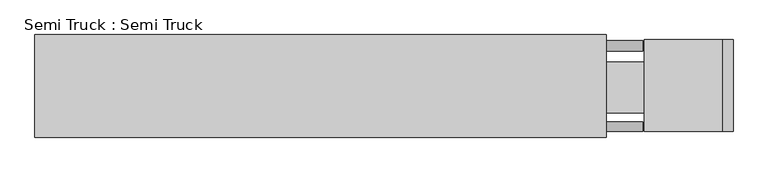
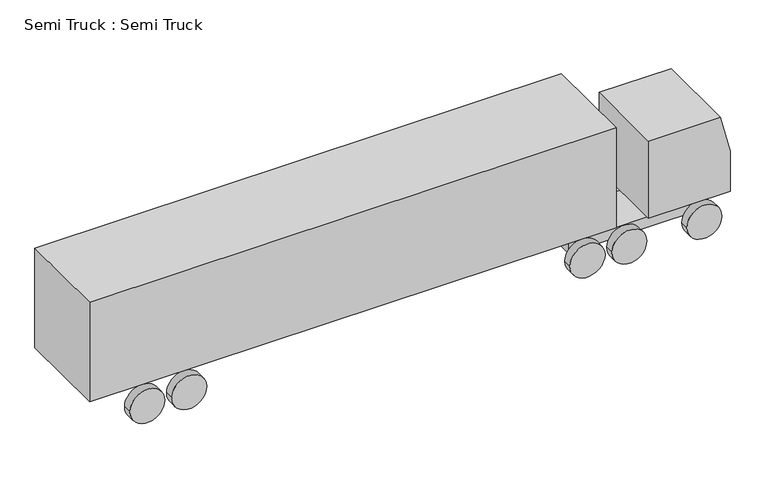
"""IFC4 building model written with IfcOpenShell, lengths in millimetres: proxy geometry, Semi Truck : Semi Truck."""

import ifcopenshell
import ifcopenshell.guid

model = None  # the IFC model being written
_history = None  # IfcOwnerHistory: only IFC2X3 demands one
_inside = {}  # id of a spatial element -> (the spatial element, [elements in it])
_under = {}  # id of a project, library or spatial element -> (it, [spatial elements below it])
_declared = {}  # id of a project -> (the project, [libraries it declares])
_typed = {}  # id of a type object -> (the type object, [elements of that type])
_made_of = {}  # id of a material, layer set ... -> (it, [elements and type objects made of it])


def new_model(schema):
    """Start an empty IFC model of exactly this schema.

    Asked for "IFC4X3", IfcOpenShell would pick the latest addendum, in which some entities
    have other attributes; the version numbers below select the first issue.
    IFC2X3 requires an IfcOwnerHistory on every rooted entity: one is made here for all.
    """
    global model, _history
    if schema == "IFC4X3":
        model = ifcopenshell.file(schema_version=(4, 3, 0, 0))
    else:
        model = ifcopenshell.file(schema=schema)
    _inside.clear()
    _under.clear()
    _declared.clear()
    _typed.clear()
    _made_of.clear()
    _history = None
    if model.schema == "IFC2X3":
        org = make("IfcOrganization", Name="unknown")
        user = make(
            "IfcPersonAndOrganization",
            ThePerson=make("IfcPerson", FamilyName="unknown"),
            TheOrganization=org,
        )
        app = make(
            "IfcApplication",
            ApplicationDeveloper=org,
            Version="unknown",
            ApplicationFullName="unknown",
            ApplicationIdentifier="unknown",
        )
        _history = make(
            "IfcOwnerHistory",
            OwningUser=user,
            OwningApplication=app,
            ChangeAction="ADDED",
            CreationDate=0,
        )
    return model


def make(cls, **values):
    """One entity of the class cls with the attributes given. An attribute that is None is left unset."""
    return model.create_entity(
        cls, **{name: value for name, value in values.items() if value is not None}
    )


def rooted(cls, **values):
    """An entity with a GlobalId (a new one), such as an element, a storey or a relation."""
    return make(cls, GlobalId=ifcopenshell.guid.new(), OwnerHistory=_history, **values)


def si_unit(unit_type, name, prefix=None):
    """IfcSIUnit, for example si_unit("LENGTHUNIT", "METRE", prefix="MILLI")."""
    return make("IfcSIUnit", UnitType=unit_type, Prefix=prefix, Name=name)


def assignment(units):
    """IfcUnitAssignment: the units of a project."""
    return None if units is None else make("IfcUnitAssignment", Units=units)


def point(xyz):
    """IfcCartesianPoint."""
    return None if xyz is None else make("IfcCartesianPoint", Coordinates=xyz)


def direction(xyz):
    """IfcDirection."""
    return None if xyz is None else make("IfcDirection", DirectionRatios=xyz)


def frame(location, z_axis=None, x_axis=None):
    """IfcAxis2Placement3D, a coordinate frame: its origin and axes. An axis left out is left unset."""
    return make(
        "IfcAxis2Placement3D",
        Location=point(location),
        Axis=direction(z_axis),
        RefDirection=direction(x_axis),
    )


def frame_2d(location, x_axis=None):
    """IfcAxis2Placement2D, a coordinate frame in the plane: its origin and x axis."""
    return make(
        "IfcAxis2Placement2D", Location=point(location), RefDirection=direction(x_axis)
    )


def origin():
    """The frame at (0, 0, 0) with its axes left unset."""
    return frame((0.0, 0.0, 0.0))


def place(relative_to, where):
    """IfcLocalPlacement: puts the frame where relative to a parent placement (None: the world)."""
    return make(
        "IfcLocalPlacement", PlacementRelTo=relative_to, RelativePlacement=where
    )


def context(
    kind, dimensions, precision=None, world=None, true_north=None, identifier=None
):
    """IfcGeometricRepresentationContext, for example the 3D "Model" context."""
    return make(
        "IfcGeometricRepresentationContext",
        ContextIdentifier=identifier,
        ContextType=kind,
        CoordinateSpaceDimension=dimensions,
        Precision=precision,
        WorldCoordinateSystem=world,
        TrueNorth=true_north,
    )


def project(units=None, contexts=None):
    """IfcProject with its units and contexts."""
    return rooted(
        "IfcProject",
        Name="project",
        RepresentationContexts=contexts,
        UnitsInContext=assignment(units),
    )


def spatial(cls, under=None, at=None, **own):
    """A site, building, storey or space (cls), placed at a placement, below another one or the project."""
    s = rooted(cls, ObjectPlacement=at, **own)
    if under is not None:
        _under.setdefault(under.id(), (under, []))[1].append(s)
    return s


def polyline(points):
    """IfcPolyline through the points."""
    return make("IfcPolyline", Points=[point(p) for p in points])


def circle_curve(where, radius):
    """IfcCircle in the frame where."""
    return make("IfcCircle", Position=where, Radius=radius)


def trimmed(basis, trim1, trim2, sense, master):
    """IfcTrimmedCurve: the piece of a basis curve between two trims."""
    return make(
        "IfcTrimmedCurve",
        BasisCurve=basis,
        Trim1=trim1,
        Trim2=trim2,
        SenseAgreement=sense,
        MasterRepresentation=master,
    )


def segment(curve, same_sense, transition):
    """IfcCompositeCurveSegment."""
    return make(
        "IfcCompositeCurveSegment",
        Transition=transition,
        SameSense=same_sense,
        ParentCurve=curve,
    )


def composite_curve(segments, self_intersect=None):
    """IfcCompositeCurve: segments joined end to end."""
    return make("IfcCompositeCurve", Segments=segments, SelfIntersect=self_intersect)


def outline(outer, holes=None, kind="AREA"):
    """IfcArbitraryClosedProfileDef: a profile drawn as a closed curve; with holes, ...WithVoids."""
    if holes is None:
        return make("IfcArbitraryClosedProfileDef", ProfileType=kind, OuterCurve=outer)
    return make(
        "IfcArbitraryProfileDefWithVoids",
        ProfileType=kind,
        OuterCurve=outer,
        InnerCurves=holes,
    )


def extrude(swept, where, along, depth):
    """IfcExtrudedAreaSolid: the profile swept, set in the frame where, extruded along a direction by depth."""
    return make(
        "IfcExtrudedAreaSolid",
        SweptArea=swept,
        Position=where,
        ExtrudedDirection=direction(along),
        Depth=depth,
    )


def shape(context_of_items, identifier, shape_type, items):
    """IfcShapeRepresentation: the items that make up one representation, for example the "Body"."""
    return make(
        "IfcShapeRepresentation",
        ContextOfItems=context_of_items,
        RepresentationIdentifier=identifier,
        RepresentationType=shape_type,
        Items=items,
    )


def source(mapping_origin, context_of_items, identifier, shape_type, items):
    """IfcRepresentationMap: a shape defined once, which mapped items show again and again."""
    return make(
        "IfcRepresentationMap",
        MappingOrigin=mapping_origin,
        MappedRepresentation=shape(context_of_items, identifier, shape_type, items),
    )


def transform(
    local_origin,
    x_axis=None,
    y_axis=None,
    z_axis=None,
    scale=None,
    scale2=None,
    scale3=None,
    uniform=True,
):
    """IfcCartesianTransformationOperator3D, or its non-uniform kind. x_axis, y_axis, z_axis: its Axis1, 2, 3."""
    if uniform:
        return make(
            "IfcCartesianTransformationOperator3D",
            Axis1=direction(x_axis),
            Axis2=direction(y_axis),
            LocalOrigin=point(local_origin),
            Scale=scale,
            Axis3=direction(z_axis),
        )
    return make(
        "IfcCartesianTransformationOperator3DnonUniform",
        Axis1=direction(x_axis),
        Axis2=direction(y_axis),
        LocalOrigin=point(local_origin),
        Scale=scale,
        Axis3=direction(z_axis),
        Scale2=scale2,
        Scale3=scale3,
    )


def mapped(mapping_source, mapping_target):
    """IfcMappedItem: shows the shape of a source again, moved by a transform."""
    return make(
        "IfcMappedItem", MappingSource=mapping_source, MappingTarget=mapping_target
    )


def made_of(thing, what):
    """Note that an element or type object is made of a material, layer set ...; save() writes the relation."""
    if what is not None:
        _made_of.setdefault(what.id(), (what, []))[1].append(thing)
    return thing


def element(
    cls,
    number,
    at=None,
    inside=None,
    cuts=None,
    type_object=None,
    material=None,
    context=None,
    identifier="Body",
    shape_type=None,
    held_by="IfcProductDefinitionShape",
    body=None,
    shapes=None,
    **own,
):
    """One element of the class cls, such as IfcWall. Its Tag is "e" and its number.

    at: its placement. inside: the storey or other place that contains it. cuts: it is an
    opening in that element (IfcRelVoidsElement). A single representation is given by context,
    identifier, shape_type and body (its items); several are given by shapes. held_by: the class
    of the entity that holds the representations. save() writes the other relations.
    """
    e = rooted(cls, Tag="e%d" % number, ObjectPlacement=at, **own)
    if body is not None:
        shapes = [shape(context, identifier, shape_type, body)]
    if shapes is not None:
        e.Representation = make(held_by, Representations=shapes)
    if inside is not None:
        _inside.setdefault(inside.id(), (inside, []))[1].append(e)
    if cuts is not None:
        rooted(
            "IfcRelVoidsElement", RelatingBuildingElement=cuts, RelatedOpeningElement=e
        )
    if type_object is not None:
        _typed.setdefault(type_object.id(), (type_object, []))[1].append(e)
    return made_of(e, material)


def aggregate(whole, parts):
    """IfcRelAggregates: a whole, such as a stair, and the parts it consists of."""
    return rooted("IfcRelAggregates", RelatingObject=whole, RelatedObjects=parts)


def save(model, path):
    """Write the relations noted so far, then the file.

    IfcRelAggregates (storeys below a building ...), IfcRelContainedInSpatialStructure (elements
    in a storey), IfcRelDefinesByType, IfcRelAssociatesMaterial and IfcRelDeclares: one each for
    every whole, place, type object, material and project.
    """
    for whole, parts in _under.values():
        aggregate(whole, parts)
    for where, things in _inside.values():
        rooted(
            "IfcRelContainedInSpatialStructure",
            RelatedElements=things,
            RelatingStructure=where,
        )
    for kind, things in _typed.values():
        rooted("IfcRelDefinesByType", RelatedObjects=things, RelatingType=kind)
    for what, things in _made_of.values():
        rooted("IfcRelAssociatesMaterial", RelatedObjects=things, RelatingMaterial=what)
    for by, libraries in _declared.values():
        rooted("IfcRelDeclares", RelatingContext=by, RelatedDefinitions=libraries)
    model.write(path)


def semi_truck_semi_truck_f452f70d(model_context):
    return source(origin(), model_context, "Body", "SweptSolid", [
        extrude(outline(polyline([(12801.9874353, 1803.4), (16129.3874353, 1803.4), (16129.3874353, 584.2), (12801.9874353, 584.2), (12801.9874353, 1803.4)])), frame((0.0, 0.0, 474.4382453), z_axis=(0.0, 0.0, 1.0), x_axis=(1.0, 0.0, 0.0)), (0.0, 0.0, 1.0), 279.4),
        extrude(outline(composite_curve([segment(trimmed(circle_curve(frame_2d((462.8573069, 16091.7081812)), 457.2), [point((462.8573069, 16548.9081812))], [point((462.8573069, 15634.5081812))], False, "CARTESIAN"), True, "CONTINUOUS"), segment(trimmed(circle_curve(frame_2d((462.8573069, 16091.7081812)), 457.2), [point((462.8573069, 15634.5081812))], [point((462.8573069, 16548.9081812))], False, "CARTESIAN"), True, "CONTINUOUS")], self_intersect=False)), frame((0.0, 133.878403, 0.0), z_axis=(0.0, 1.0, 0.0), x_axis=(0.0, 0.0, 1.0)), (0.0, 0.0, 1.0), 228.6),
        extrude(outline(composite_curve([segment(trimmed(circle_curve(frame_2d((464.8502402, 13047.865337)), 457.2), [point((464.8502402, 13505.065337))], [point((464.8502402, 12590.665337))], False, "CARTESIAN"), True, "CONTINUOUS"), segment(trimmed(circle_curve(frame_2d((464.8502402, 13047.865337)), 457.2), [point((464.8502402, 12590.665337))], [point((464.8502402, 13505.065337))], False, "CARTESIAN"), True, "CONTINUOUS")], self_intersect=False)), frame((0.0, 133.878403, 0.0), z_axis=(0.0, 1.0, 0.0), x_axis=(0.0, 0.0, 1.0)), (0.0, 0.0, 1.0), 228.6),
        extrude(outline(composite_curve([segment(trimmed(circle_curve(frame_2d((462.8573069, 14137.8642567)), 457.2), [point((462.8573069, 14595.0642567))], [point((462.8573069, 13680.6642567))], False, "CARTESIAN"), True, "CONTINUOUS"), segment(trimmed(circle_curve(frame_2d((462.8573069, 14137.8642567)), 457.2), [point((462.8573069, 13680.6642567))], [point((462.8573069, 14595.0642567))], False, "CARTESIAN"), True, "CONTINUOUS")], self_intersect=False)), frame((0.0, 133.878403, 0.0), z_axis=(0.0, 1.0, 0.0), x_axis=(0.0, 0.0, 1.0)), (0.0, 0.0, 1.0), 228.6),
        extrude(outline(composite_curve([segment(trimmed(circle_curve(frame_2d((471.1409074, 2673.3437978)), 457.2), [point((471.1409074, 3130.5437978))], [point((471.1409074, 2216.1437978))], False, "CARTESIAN"), True, "CONTINUOUS"), segment(trimmed(circle_curve(frame_2d((471.1409074, 2673.3437978)), 457.2), [point((471.1409074, 2216.1437978))], [point((471.1409074, 3130.5437978))], False, "CARTESIAN"), True, "CONTINUOUS")], self_intersect=False)), frame((0.0, 133.878403, 0.0), z_axis=(0.0, 1.0, 0.0), x_axis=(0.0, 0.0, 1.0)), (0.0, 0.0, 1.0), 228.6),
        extrude(outline(polyline([(1066.8, 16764.0), (2168.2557891, 16764.0), (3200.4, 16501.4938374), (3200.4, 14630.4), (1066.8, 14630.4), (1066.8, 16764.0)])), frame((0.0, 133.878403, 0.0), z_axis=(0.0, 1.0, 0.0), x_axis=(0.0, 0.0, 1.0)), (0.0, 0.0, 1.0), 2212.0834331),
        extrude(outline(composite_curve([segment(trimmed(circle_curve(frame_2d((461.9942506, 16091.7889873)), 457.2), [point((461.9942506, 16548.9889873))], [point((461.9942506, 15634.5889873))], False, "CARTESIAN"), True, "CONTINUOUS"), segment(trimmed(circle_curve(frame_2d((461.9942506, 16091.7889873)), 457.2), [point((461.9942506, 15634.5889873))], [point((461.9942506, 16548.9889873))], False, "CARTESIAN"), True, "CONTINUOUS")], self_intersect=False)), frame((0.0, 2066.561836, 0.0), z_axis=(0.0, 1.0, 0.0), x_axis=(0.0, 0.0, 1.0)), (0.0, 0.0, 1.0), 254.0),
        extrude(outline(composite_curve([segment(trimmed(circle_curve(frame_2d((471.1409074, 2673.3437978)), 457.2), [point((471.1409074, 3130.5437978))], [point((471.1409074, 2216.1437978))], False, "CARTESIAN"), True, "CONTINUOUS"), segment(trimmed(circle_curve(frame_2d((471.1409074, 2673.3437978)), 457.2), [point((471.1409074, 2216.1437978))], [point((471.1409074, 3130.5437978))], False, "CARTESIAN"), True, "CONTINUOUS")], self_intersect=False)), frame((0.0, 133.878403, 0.0), z_axis=(0.0, 1.0, 0.0), x_axis=(0.0, 0.0, 1.0)), (0.0, 0.0, 1.0), 228.6),
        extrude(outline(composite_curve([segment(trimmed(circle_curve(frame_2d((471.1409074, 1581.3519448)), 457.2), [point((471.1409074, 2038.5519448))], [point((471.1409074, 1124.1519448))], False, "CARTESIAN"), True, "CONTINUOUS"), segment(trimmed(circle_curve(frame_2d((471.1409074, 1581.3519448)), 457.2), [point((471.1409074, 1124.1519448))], [point((471.1409074, 2038.5519448))], False, "CARTESIAN"), True, "CONTINUOUS")], self_intersect=False)), frame((0.0, 133.878403, 0.0), z_axis=(0.0, 1.0, 0.0), x_axis=(0.0, 0.0, 1.0)), (0.0, 0.0, 1.0), 228.6),
        extrude(outline(composite_curve([segment(trimmed(circle_curve(frame_2d((464.0721679, 13049.2660873)), 457.2), [point((464.0721679, 13506.4660873))], [point((464.0721679, 12592.0660873))], False, "CARTESIAN"), True, "CONTINUOUS"), segment(trimmed(circle_curve(frame_2d((464.0721679, 13049.2660873)), 457.2), [point((464.0721679, 12592.0660873))], [point((464.0721679, 13506.4660873))], False, "CARTESIAN"), True, "CONTINUOUS")], self_intersect=False)), frame((0.0, 2066.561836, 0.0), z_axis=(0.0, 1.0, 0.0), x_axis=(0.0, 0.0, 1.0)), (0.0, 0.0, 1.0), 254.0),
        extrude(outline(composite_curve([segment(trimmed(circle_curve(frame_2d((464.0721679, 14141.2579404)), 457.2), [point((464.0721679, 14598.4579404))], [point((464.0721679, 13684.0579404))], False, "CARTESIAN"), True, "CONTINUOUS"), segment(trimmed(circle_curve(frame_2d((464.0721679, 14141.2579404)), 457.2), [point((464.0721679, 13684.0579404))], [point((464.0721679, 14598.4579404))], False, "CARTESIAN"), True, "CONTINUOUS")], self_intersect=False)), frame((0.0, 2066.561836, 0.0), z_axis=(0.0, 1.0, 0.0), x_axis=(0.0, 0.0, 1.0)), (0.0, 0.0, 1.0), 254.0),
        extrude(outline(composite_curve([segment(trimmed(circle_curve(frame_2d((471.1409074, 1581.3519448)), 457.2), [point((471.1409074, 2038.5519448))], [point((471.1409074, 1124.1519448))], False, "CARTESIAN"), True, "CONTINUOUS"), segment(trimmed(circle_curve(frame_2d((471.1409074, 1581.3519448)), 457.2), [point((471.1409074, 1124.1519448))], [point((471.1409074, 2038.5519448))], False, "CARTESIAN"), True, "CONTINUOUS")], self_intersect=False)), frame((0.0, 2066.561836, 0.0), z_axis=(0.0, 1.0, 0.0), x_axis=(0.0, 0.0, 1.0)), (0.0, 0.0, 1.0), 254.0),
        extrude(outline(composite_curve([segment(trimmed(circle_curve(frame_2d((471.1409074, 2673.3437978)), 457.2), [point((471.1409074, 3130.5437978))], [point((471.1409074, 2216.1437978))], False, "CARTESIAN"), True, "CONTINUOUS"), segment(trimmed(circle_curve(frame_2d((471.1409074, 2673.3437978)), 457.2), [point((471.1409074, 2216.1437978))], [point((471.1409074, 3130.5437978))], False, "CARTESIAN"), True, "CONTINUOUS")], self_intersect=False)), frame((0.0, 2066.561836, 0.0), z_axis=(0.0, 1.0, 0.0), x_axis=(0.0, 0.0, 1.0)), (0.0, 0.0, 1.0), 254.0),
        extrude(outline(polyline([(13716.0, 2463.8), (13716.0, 0.0), (0.0, 0.0), (0.0, 2463.8), (13716.0, 2463.8)])), frame((0.0, 0.0, 1219.2), z_axis=(0.0, 0.0, 1.0), x_axis=(1.0, 0.0, 0.0)), (0.0, 0.0, 1.0), 2743.2),
    ])


if __name__ == "__main__":
    model = new_model("IFC4")
    model_context = context("Model", 3, world=origin())
    ifc_project = project(units=[si_unit("LENGTHUNIT", "METRE", prefix="MILLI")], contexts=[model_context])
    site = spatial("IfcSite", under=ifc_project)
    building = spatial("IfcBuilding", under=site)
    placement = place(None, origin())
    semi_truck_semi_truck_shape = semi_truck_semi_truck_f452f70d(model_context)
    element("IfcBuildingElementProxy", 1, Name="Semi Truck : Semi Truck", ObjectType="Semi Truck : Semi Truck", at=placement, inside=building, context=model_context, shape_type="MappedRepresentation", body=[
        mapped(semi_truck_semi_truck_shape, transform((0.0, 0.0, 0.0), x_axis=(1.0, 0.0, 0.0), y_axis=(0.0, 1.0, 0.0), z_axis=(0.0, 0.0, 1.0))),
    ])
    save(model, "model.ifc")
